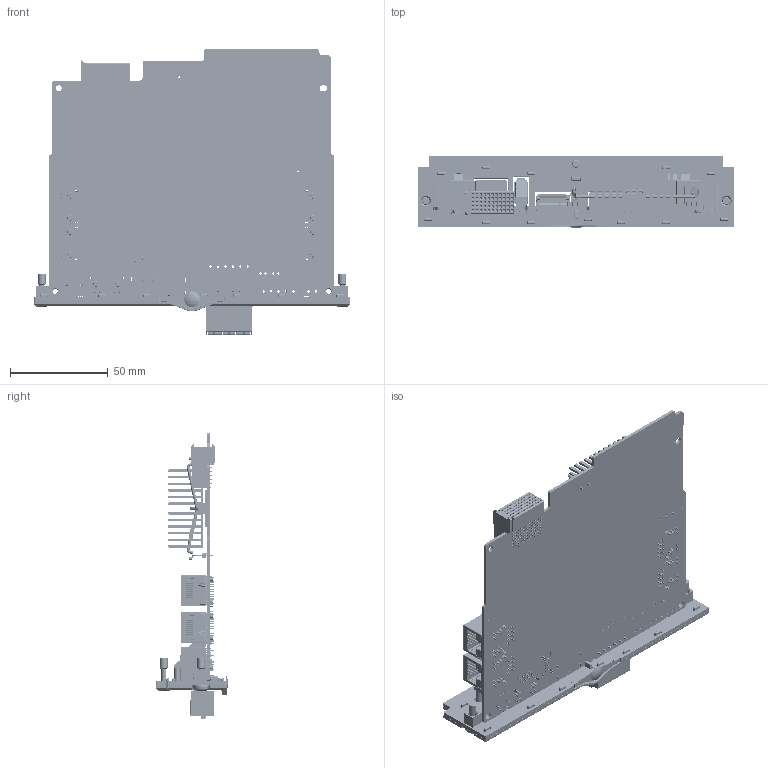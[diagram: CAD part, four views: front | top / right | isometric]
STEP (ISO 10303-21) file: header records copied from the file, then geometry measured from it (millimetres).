
FILE_DESCRIPTION(/* description */ (''),/* implementation_level */ '2;1');
FILE_NAME(/* name */ 'PCM3.2_3D CAD_20250303.stp',/* time_stamp */ '2025-03-03T10:25:19+01:00',/* author */ ('DSP'),/* organization */ (''),/* preprocessor_version */ 'ST-DEVELOPER v19.2',/* originating_system */ 'Autodesk Inventor 2023',/* authorisation */ '');
FILE_SCHEMA (('AUTOMOTIVE_DESIGN { 1 0 10303 214 3 1 1 }'));
Products named in the file (1): PCM3.2_3D CAD_SMPL_20250303
Bounding box: 162 x 37.1 x 146.2 mm (x, y, z)
Volume: 81031.9 mm3; surface area: 106110.3 mm2
Topology: 1 solids, 1 shells, 9984 faces, 27725 edges, 17657 vertices
Faces by surface type: plane 6752, cylinder 2564, bspline 238, cone 206, torus 120, sphere 104
Full cylindrical faces by diameter (mm): 0.457 x2, 0.6 x55, 0.7 x9, 0.8 x3, 0.9 x40, 0.97 x4, 1 x24, 1.168 x10, 1.2 x25, 1.25 x6, 1.422 x6, 1.5 x10, 1.6 x10, 2.1 x1, 2.459 x2, 2.5 x3, 2.997 x3, 3 x3, 3.05 x1, 3.1 x6, 3.242 x2, 3.3 x1, 3.5 x1, 3.7 x1, 4 x3, 4.4 x2, 4.5 x3, 5.5 x2, 8 x3
Entity records: 337849 total; most frequent: CARTESIAN_POINT 68937, ORIENTED_EDGE 55100, DIRECTION 52319, EDGE_CURVE 27550, LINE 20911, VECTOR 20911, VERTEX_POINT 17652, AXIS2_PLACEMENT_3D 15704
